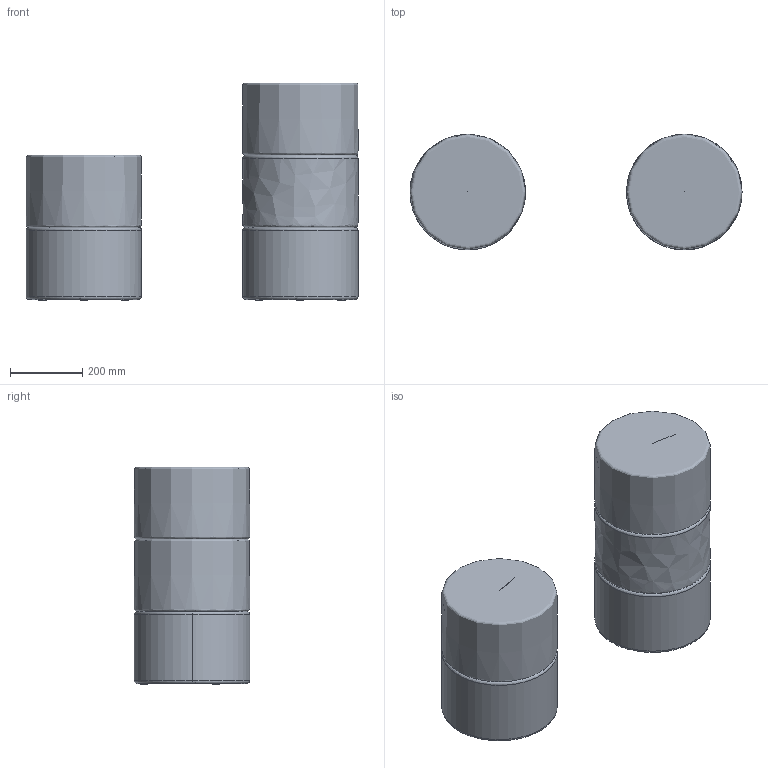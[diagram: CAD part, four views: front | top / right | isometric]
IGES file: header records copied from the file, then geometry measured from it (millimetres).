
Global section: file name: /Volumes/Team/Clients/Pulpo/2014 Oda/data-export/Pulpo_IMI_studioSebastianHerkner.igs; native system: Rhinoceros ( Nov 10 2020 ); preprocessor: Trout Lake IGES 012 Nov 10 2020; date: 210427.093432; units: millimetre
Bounding box: 920 x 320 x 604 mm (x, y, z)
Surface area: 2697079.8 mm2 (no closed solid volume)
Topology: 0 solids, 0 shells, 67 faces, 260 edges, 214 vertices
Faces by surface type: bspline 67
